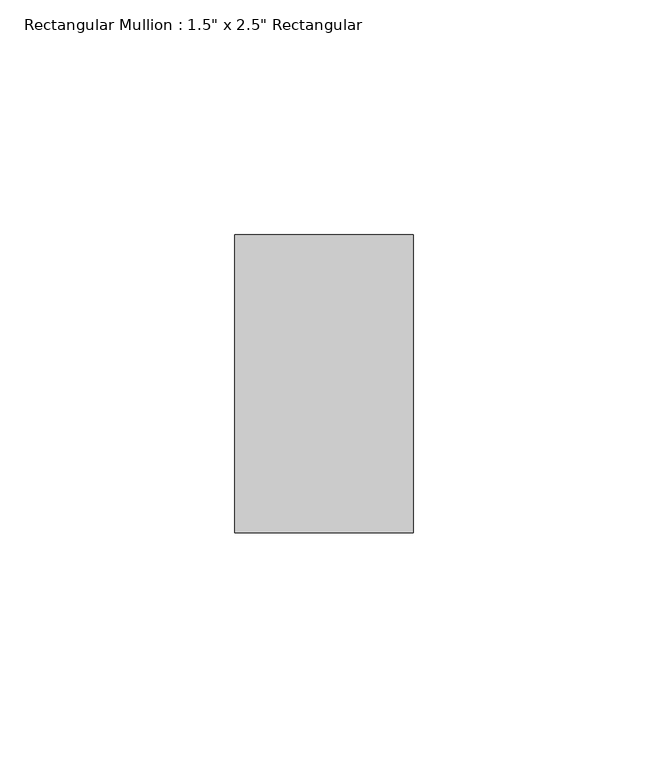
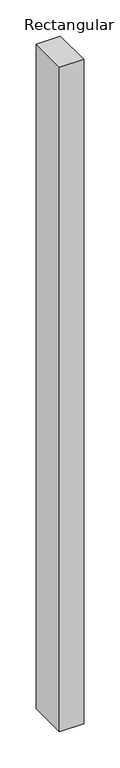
"""IFC4 building model written with IfcOpenShell, lengths in millimetres: member geometry."""

import ifcopenshell
import ifcopenshell.guid

model = None  # the IFC model being written
_history = None  # IfcOwnerHistory: only IFC2X3 demands one
_inside = {}  # id of a spatial element -> (the spatial element, [elements in it])
_under = {}  # id of a project, library or spatial element -> (it, [spatial elements below it])
_declared = {}  # id of a project -> (the project, [libraries it declares])
_typed = {}  # id of a type object -> (the type object, [elements of that type])
_made_of = {}  # id of a material, layer set ... -> (it, [elements and type objects made of it])


def new_model(schema):
    """Start an empty IFC model of exactly this schema.

    Asked for "IFC4X3", IfcOpenShell would pick the latest addendum, in which some entities
    have other attributes; the version numbers below select the first issue.
    IFC2X3 requires an IfcOwnerHistory on every rooted entity: one is made here for all.
    """
    global model, _history
    if schema == "IFC4X3":
        model = ifcopenshell.file(schema_version=(4, 3, 0, 0))
    else:
        model = ifcopenshell.file(schema=schema)
    _inside.clear()
    _under.clear()
    _declared.clear()
    _typed.clear()
    _made_of.clear()
    _history = None
    if model.schema == "IFC2X3":
        org = make("IfcOrganization", Name="unknown")
        user = make(
            "IfcPersonAndOrganization",
            ThePerson=make("IfcPerson", FamilyName="unknown"),
            TheOrganization=org,
        )
        app = make(
            "IfcApplication",
            ApplicationDeveloper=org,
            Version="unknown",
            ApplicationFullName="unknown",
            ApplicationIdentifier="unknown",
        )
        _history = make(
            "IfcOwnerHistory",
            OwningUser=user,
            OwningApplication=app,
            ChangeAction="ADDED",
            CreationDate=0,
        )
    return model


def make(cls, **values):
    """One entity of the class cls with the attributes given. An attribute that is None is left unset."""
    return model.create_entity(
        cls, **{name: value for name, value in values.items() if value is not None}
    )


def rooted(cls, **values):
    """An entity with a GlobalId (a new one), such as an element, a storey or a relation."""
    return make(cls, GlobalId=ifcopenshell.guid.new(), OwnerHistory=_history, **values)


def si_unit(unit_type, name, prefix=None):
    """IfcSIUnit, for example si_unit("LENGTHUNIT", "METRE", prefix="MILLI")."""
    return make("IfcSIUnit", UnitType=unit_type, Prefix=prefix, Name=name)


def assignment(units):
    """IfcUnitAssignment: the units of a project."""
    return None if units is None else make("IfcUnitAssignment", Units=units)


def point(xyz):
    """IfcCartesianPoint."""
    return None if xyz is None else make("IfcCartesianPoint", Coordinates=xyz)


def direction(xyz):
    """IfcDirection."""
    return None if xyz is None else make("IfcDirection", DirectionRatios=xyz)


def frame(location, z_axis=None, x_axis=None):
    """IfcAxis2Placement3D, a coordinate frame: its origin and axes. An axis left out is left unset."""
    return make(
        "IfcAxis2Placement3D",
        Location=point(location),
        Axis=direction(z_axis),
        RefDirection=direction(x_axis),
    )


def origin():
    """The frame at (0, 0, 0) with its axes left unset."""
    return frame((0.0, 0.0, 0.0))


def place(relative_to, where):
    """IfcLocalPlacement: puts the frame where relative to a parent placement (None: the world)."""
    return make(
        "IfcLocalPlacement", PlacementRelTo=relative_to, RelativePlacement=where
    )


def context(
    kind, dimensions, precision=None, world=None, true_north=None, identifier=None
):
    """IfcGeometricRepresentationContext, for example the 3D "Model" context."""
    return make(
        "IfcGeometricRepresentationContext",
        ContextIdentifier=identifier,
        ContextType=kind,
        CoordinateSpaceDimension=dimensions,
        Precision=precision,
        WorldCoordinateSystem=world,
        TrueNorth=true_north,
    )


def project(units=None, contexts=None):
    """IfcProject with its units and contexts."""
    return rooted(
        "IfcProject",
        Name="project",
        RepresentationContexts=contexts,
        UnitsInContext=assignment(units),
    )


def spatial(cls, under=None, at=None, **own):
    """A site, building, storey or space (cls), placed at a placement, below another one or the project."""
    s = rooted(cls, ObjectPlacement=at, **own)
    if under is not None:
        _under.setdefault(under.id(), (under, []))[1].append(s)
    return s


def polyline(points):
    """IfcPolyline through the points."""
    return make("IfcPolyline", Points=[point(p) for p in points])


def outline(outer, holes=None, kind="AREA"):
    """IfcArbitraryClosedProfileDef: a profile drawn as a closed curve; with holes, ...WithVoids."""
    if holes is None:
        return make("IfcArbitraryClosedProfileDef", ProfileType=kind, OuterCurve=outer)
    return make(
        "IfcArbitraryProfileDefWithVoids",
        ProfileType=kind,
        OuterCurve=outer,
        InnerCurves=holes,
    )


def extrude(swept, where, along, depth):
    """IfcExtrudedAreaSolid: the profile swept, set in the frame where, extruded along a direction by depth."""
    return make(
        "IfcExtrudedAreaSolid",
        SweptArea=swept,
        Position=where,
        ExtrudedDirection=direction(along),
        Depth=depth,
    )


def shape(context_of_items, identifier, shape_type, items):
    """IfcShapeRepresentation: the items that make up one representation, for example the "Body"."""
    return make(
        "IfcShapeRepresentation",
        ContextOfItems=context_of_items,
        RepresentationIdentifier=identifier,
        RepresentationType=shape_type,
        Items=items,
    )


def source(mapping_origin, context_of_items, identifier, shape_type, items):
    """IfcRepresentationMap: a shape defined once, which mapped items show again and again."""
    return make(
        "IfcRepresentationMap",
        MappingOrigin=mapping_origin,
        MappedRepresentation=shape(context_of_items, identifier, shape_type, items),
    )


def transform(
    local_origin,
    x_axis=None,
    y_axis=None,
    z_axis=None,
    scale=None,
    scale2=None,
    scale3=None,
    uniform=True,
):
    """IfcCartesianTransformationOperator3D, or its non-uniform kind. x_axis, y_axis, z_axis: its Axis1, 2, 3."""
    if uniform:
        return make(
            "IfcCartesianTransformationOperator3D",
            Axis1=direction(x_axis),
            Axis2=direction(y_axis),
            LocalOrigin=point(local_origin),
            Scale=scale,
            Axis3=direction(z_axis),
        )
    return make(
        "IfcCartesianTransformationOperator3DnonUniform",
        Axis1=direction(x_axis),
        Axis2=direction(y_axis),
        LocalOrigin=point(local_origin),
        Scale=scale,
        Axis3=direction(z_axis),
        Scale2=scale2,
        Scale3=scale3,
    )


def mapped(mapping_source, mapping_target):
    """IfcMappedItem: shows the shape of a source again, moved by a transform."""
    return make(
        "IfcMappedItem", MappingSource=mapping_source, MappingTarget=mapping_target
    )


def made_of(thing, what):
    """Note that an element or type object is made of a material, layer set ...; save() writes the relation."""
    if what is not None:
        _made_of.setdefault(what.id(), (what, []))[1].append(thing)
    return thing


def element(
    cls,
    number,
    at=None,
    inside=None,
    cuts=None,
    type_object=None,
    material=None,
    context=None,
    identifier="Body",
    shape_type=None,
    held_by="IfcProductDefinitionShape",
    body=None,
    shapes=None,
    **own,
):
    """One element of the class cls, such as IfcWall. Its Tag is "e" and its number.

    at: its placement. inside: the storey or other place that contains it. cuts: it is an
    opening in that element (IfcRelVoidsElement). A single representation is given by context,
    identifier, shape_type and body (its items); several are given by shapes. held_by: the class
    of the entity that holds the representations. save() writes the other relations.
    """
    e = rooted(cls, Tag="e%d" % number, ObjectPlacement=at, **own)
    if body is not None:
        shapes = [shape(context, identifier, shape_type, body)]
    if shapes is not None:
        e.Representation = make(held_by, Representations=shapes)
    if inside is not None:
        _inside.setdefault(inside.id(), (inside, []))[1].append(e)
    if cuts is not None:
        rooted(
            "IfcRelVoidsElement", RelatingBuildingElement=cuts, RelatedOpeningElement=e
        )
    if type_object is not None:
        _typed.setdefault(type_object.id(), (type_object, []))[1].append(e)
    return made_of(e, material)


def aggregate(whole, parts):
    """IfcRelAggregates: a whole, such as a stair, and the parts it consists of."""
    return rooted("IfcRelAggregates", RelatingObject=whole, RelatedObjects=parts)


def save(model, path):
    """Write the relations noted so far, then the file.

    IfcRelAggregates (storeys below a building ...), IfcRelContainedInSpatialStructure (elements
    in a storey), IfcRelDefinesByType, IfcRelAssociatesMaterial and IfcRelDeclares: one each for
    every whole, place, type object, material and project.
    """
    for whole, parts in _under.values():
        aggregate(whole, parts)
    for where, things in _inside.values():
        rooted(
            "IfcRelContainedInSpatialStructure",
            RelatedElements=things,
            RelatingStructure=where,
        )
    for kind, things in _typed.values():
        rooted("IfcRelDefinesByType", RelatedObjects=things, RelatingType=kind)
    for what, things in _made_of.values():
        rooted("IfcRelAssociatesMaterial", RelatedObjects=things, RelatingMaterial=what)
    for by, libraries in _declared.values():
        rooted("IfcRelDeclares", RelatingContext=by, RelatedDefinitions=libraries)
    model.write(path)


def member_a3731390(model_context):
    return source(origin(), model_context, "Body", "SweptSolid", [
        extrude(outline(polyline([(19.05, 31.75), (19.05, -31.75), (-19.05, -31.75), (-19.05, 31.75), (19.05, 31.75)])), frame((0.0, 0.0, -1114.425), z_axis=(0.0, 0.0, 1.0), x_axis=(1.0, 0.0, 0.0)), (0.0, 0.0, 1.0), 1114.425),
    ])


if __name__ == "__main__":
    model = new_model("IFC4")
    model_context = context("Model", 3, world=origin())
    ifc_project = project(units=[si_unit("LENGTHUNIT", "METRE", prefix="MILLI")], contexts=[model_context])
    site = spatial("IfcSite", under=ifc_project)
    building = spatial("IfcBuilding", under=site)
    placement = place(None, origin())
    member_shape = member_a3731390(model_context)
    element("IfcMember", 1, ObjectType="Rectangular Mullion : 1.5\" x 2.5\" Rectangular", at=placement, inside=building, context=model_context, shape_type="MappedRepresentation", body=[
        mapped(member_shape, transform((0.0, 0.0, 0.0), x_axis=(1.0, 0.0, 0.0), y_axis=(0.0, 1.0, 0.0), z_axis=(0.0, 0.0, 1.0))),
    ])
    save(model, "model.ifc")
